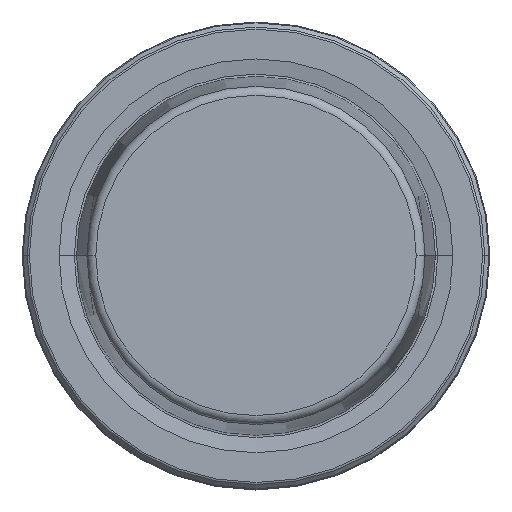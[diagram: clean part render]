
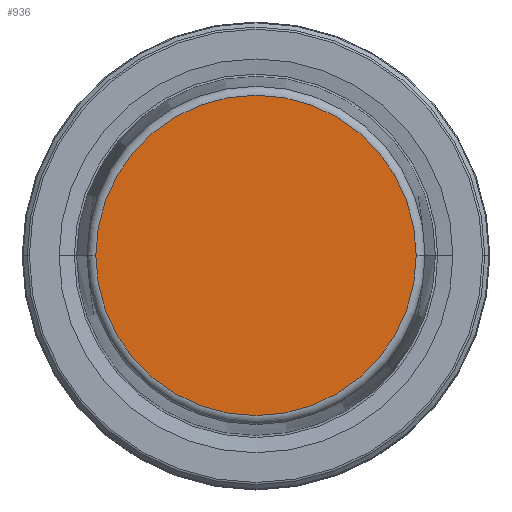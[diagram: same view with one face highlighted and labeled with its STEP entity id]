
A CAD part, top view. The second image highlights one B-rep face of the part: STEP entity #936.
In plain terms, the highlighted planar face has unit normal (0, 0, 1).
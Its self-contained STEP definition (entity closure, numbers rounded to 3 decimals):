
#1 = AXIS2_PLACEMENT_3D ( 'NONE', #1178, #507, #1147 ) ;
#32 = CARTESIAN_POINT ( 'NONE',  ( 0., 0., 31.9 ) ) ;
#63 = AXIS2_PLACEMENT_3D ( 'NONE', #211, #1117, #358 ) ;
#182 = DIRECTION ( 'NONE',  ( 1., 0., 0. ) ) ;
#183 = FACE_OUTER_BOUND ( 'NONE', #513, .T. ) ;
#211 = CARTESIAN_POINT ( 'NONE',  ( 0., 0., 31.9 ) ) ;
#358 = DIRECTION ( 'NONE',  ( 1., 0., 0. ) ) ;
#382 = ORIENTED_EDGE ( 'NONE', *, *, #967, .T. ) ;
#390 = CIRCLE ( 'NONE', #63, 21.581 ) ;
#486 = CARTESIAN_POINT ( 'NONE',  ( -21.581, 0., 31.9 ) ) ;
#507 = DIRECTION ( 'NONE',  ( 0., 0., -1. ) ) ;
#513 = EDGE_LOOP ( 'NONE', ( #692, #382 ) ) ;
#527 = VERTEX_POINT ( 'NONE', #486 ) ;
#554 = AXIS2_PLACEMENT_3D ( 'NONE', #32, #1075, #182 ) ;
#606 = CIRCLE ( 'NONE', #554, 21.581 ) ;
#692 = ORIENTED_EDGE ( 'NONE', *, *, #832, .T. ) ;
#832 = EDGE_CURVE ( 'NONE', #1031, #527, #606, .T. ) ;
#912 = CARTESIAN_POINT ( 'NONE',  ( 21.581, 0., 31.9 ) ) ;
#936 = ADVANCED_FACE ( 'NONE', ( #183 ), #1539, .F. ) ;
#967 = EDGE_CURVE ( 'NONE', #527, #1031, #390, .T. ) ;
#1031 = VERTEX_POINT ( 'NONE', #912 ) ;
#1075 = DIRECTION ( 'NONE',  ( 0., 0., 1. ) ) ;
#1117 = DIRECTION ( 'NONE',  ( 0., 0., 1. ) ) ;
#1147 = DIRECTION ( 'NONE',  ( -1., 0., 0. ) ) ;
#1178 = CARTESIAN_POINT ( 'NONE',  ( 0., 17.5, 31.9 ) ) ;
#1539 = PLANE ( 'NONE',  #1 ) ;
